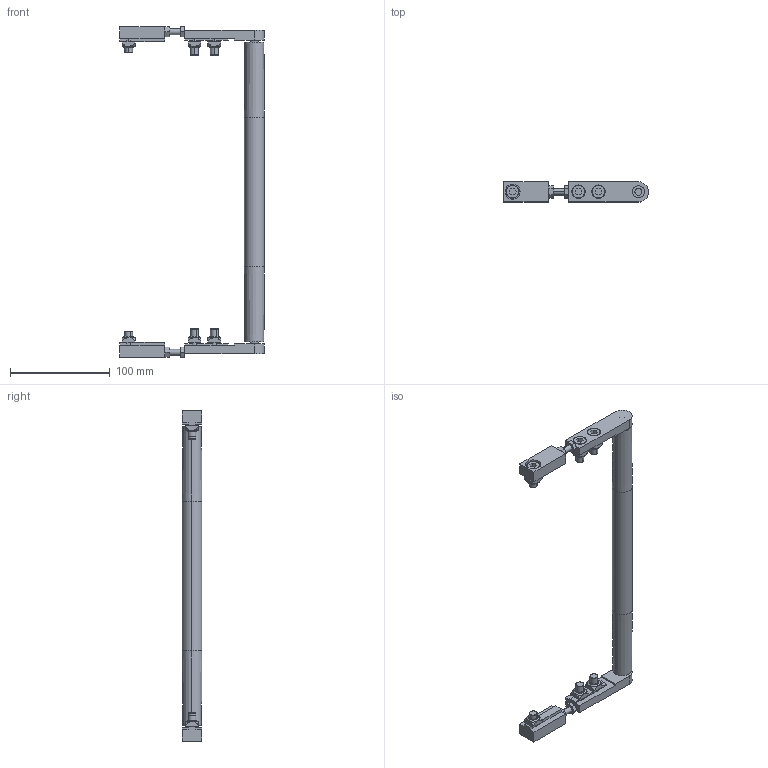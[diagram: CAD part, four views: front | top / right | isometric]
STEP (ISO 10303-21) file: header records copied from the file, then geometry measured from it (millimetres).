
FILE_DESCRIPTION (( 'STEP AP214' ), '1' );
FILE_NAME ('084.020.KI.280.STEP', '2021-02-05T13:56:29', ( '' ), ( '' ), 'SwSTEP 2.0', 'SolidWorks 2018', '' );
FILE_SCHEMA (( 'AUTOMOTIVE_DESIGN' ));
Length unit declared in the file: millimetre
Products named in the file (10): 084.800.012; 084.020.KI.280; 084.302.000 DADI ALUSIC 13x13-1_084.302.004; 084.802.008; 084.800.008; 084.800.002; 084.800.007; 084.800.036; Circlip DIN 471 - 8 x 0.8_Circlip DIN 471 - 8 x 0.8; 084.301.000 VITI ALUSIC_084.301.003
Assembly tree (27 placements, depth 2):
  084.020.KI.280
    084.802.008  x2
    084.301.000 VITI ALUSIC_084.301.003  x6
    084.302.000 DADI ALUSIC 13x13-1_084.302.004  x6
    084.800.036
    084.800.012  x4
    084.800.008  x2
    084.800.002  x2
    084.800.007  x2
    Circlip DIN 471 - 8 x 0.8_Circlip DIN 471 - 8 x 0.8  x2
Bounding box: 145 x 20 x 331 mm (x, y, z)
Volume: 116436.2 mm3; surface area: 73709.4 mm2
Topology: 31 solids, 31 shells, 664 faces, 1564 edges, 998 vertices
Faces by surface type: plane 262, cylinder 210, torus 112, cone 56, bspline 24
Entity records: 7452 total; most frequent: CARTESIAN_POINT 1561, DIRECTION 1208, ORIENTED_EDGE 1048, EDGE_CURVE 524, AXIS2_PLACEMENT_3D 474, VERTEX_POINT 337, LINE 260, VECTOR 260
